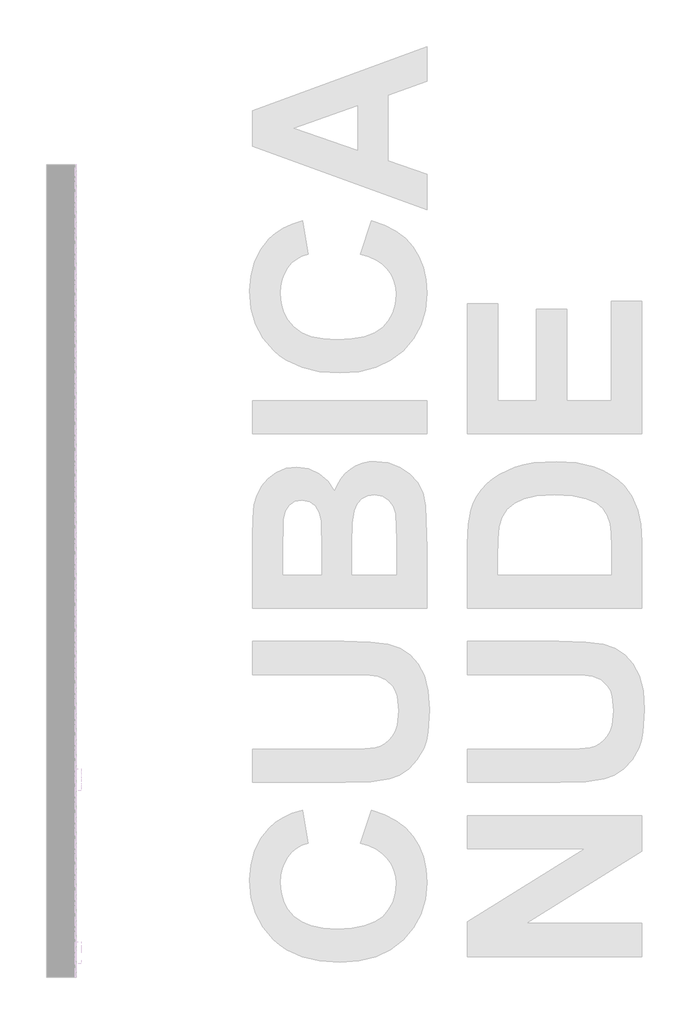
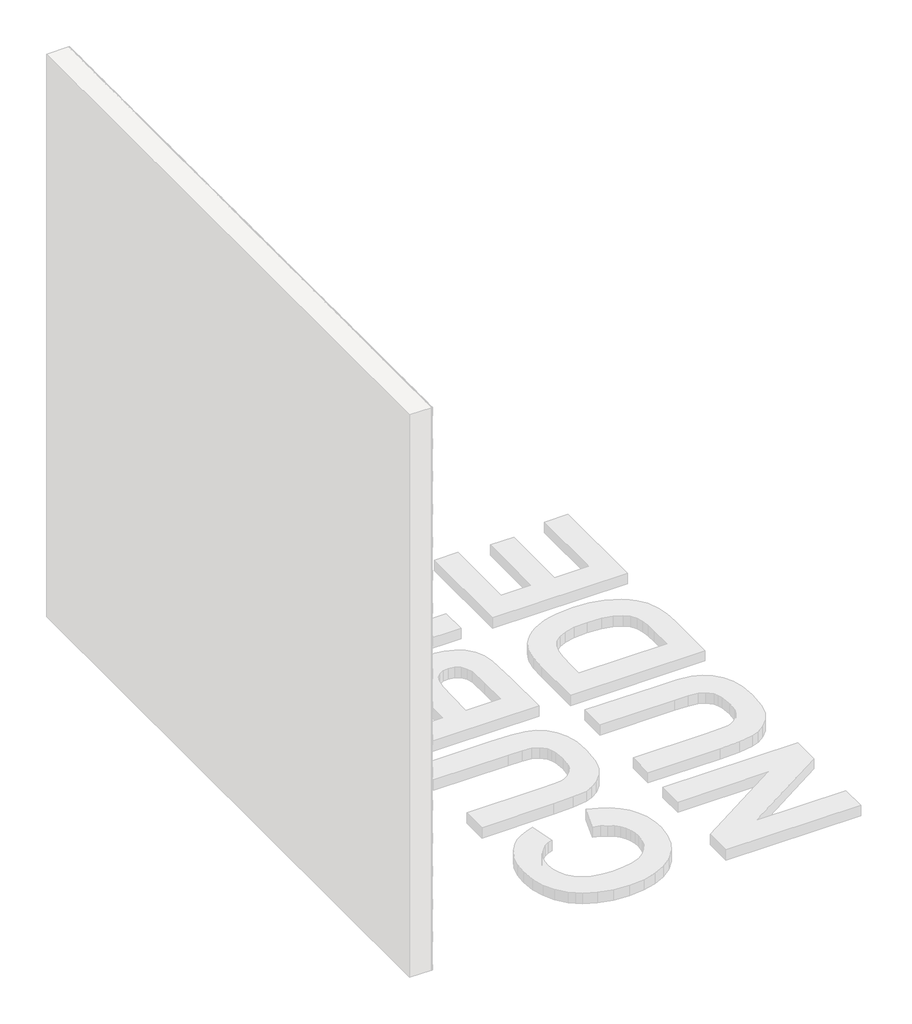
# One storey, part 66 of 121: 145 proxies.
"""IFC4 building model written with IfcOpenShell, lengths in millimetres."""

from ifc_helpers import new_model, si_unit, origin, place, context, project, spatial, transform, mapped, element, save
from components import generic_models_b2b2c5c1, generic_models_9bf73f6f, generic_models_5d175859

model = new_model("IFC4")

# Units and contexts
model_context = context("Model", 3, world=origin())
ifc_project = project(units=[si_unit("LENGTHUNIT", "METRE", prefix="MILLI")], contexts=[model_context])

# Site, building, storey
site = spatial("IfcSite", under=ifc_project)
building = spatial("IfcBuilding", under=site)
storey = spatial("IfcBuildingStorey", under=building, Name="PORTOBELLO - SHOWROOM", Elevation=0.0)

# Proxies
placement = place(None, origin())
generic_models_shape = generic_models_b2b2c5c1(model_context)
element("IfcBuildingElementProxy", 1, Name="PBSHOP - CUBICA NUDE 4,8X8,3 : CUBICA NUDE - POSIÇÃO 01", ObjectType="PBSHOP - CUBICA NUDE 4,8X8,3 : CUBICA NUDE - POSIÇÃO 01", at=placement, inside=storey, context=model_context, shape_type="MappedRepresentation", body=[
    mapped(generic_models_shape, transform((150369.5341846, 8622.109842, 749.8339122), x_axis=(0.0, 1.0, 0.0), y_axis=(0.0, 0.0, 1.0), z_axis=(1.0, 0.0, 0.0))),
])
element("IfcBuildingElementProxy", 2, Name="PBSHOP - CUBICA NUDE 4,8X8,3 : CUBICA NUDE - POSIÇÃO 01", ObjectType="PBSHOP - CUBICA NUDE 4,8X8,3 : CUBICA NUDE - POSIÇÃO 01", at=placement, inside=storey, context=model_context, shape_type="MappedRepresentation", body=[
    mapped(generic_models_shape, transform((150369.5341846, 8712.9491113, 749.8339122), x_axis=(0.0, 1.0, 0.0), y_axis=(0.0, 0.0, 1.0), z_axis=(1.0, 0.0, 0.0))),
])
element("IfcBuildingElementProxy", 3, Name="PBSHOP - CUBICA NUDE 4,8X8,3 : CUBICA NUDE - POSIÇÃO 01", ObjectType="PBSHOP - CUBICA NUDE 4,8X8,3 : CUBICA NUDE - POSIÇÃO 01", at=placement, inside=storey, context=model_context, shape_type="MappedRepresentation", body=[
    mapped(generic_models_shape, transform((150369.5341846, 8803.7883805, 749.8339122), x_axis=(0.0, 1.0, 0.0), y_axis=(0.0, 0.0, 1.0), z_axis=(1.0, 0.0, 0.0))),
])
element("IfcBuildingElementProxy", 4, Name="PBSHOP - CUBICA NUDE 4,8X8,3 : CUBICA NUDE - POSIÇÃO 01", ObjectType="PBSHOP - CUBICA NUDE 4,8X8,3 : CUBICA NUDE - POSIÇÃO 01", at=placement, inside=storey, context=model_context, shape_type="MappedRepresentation", body=[
    mapped(generic_models_shape, transform((150369.5341846, 8894.6276498, 749.8339122), x_axis=(0.0, 1.0, 0.0), y_axis=(0.0, 0.0, 1.0), z_axis=(1.0, 0.0, 0.0))),
])
element("IfcBuildingElementProxy", 5, Name="PBSHOP - CUBICA NUDE 4,8X8,3 : CUBICA NUDE - POSIÇÃO 01", ObjectType="PBSHOP - CUBICA NUDE 4,8X8,3 : CUBICA NUDE - POSIÇÃO 01", at=placement, inside=storey, context=model_context, shape_type="MappedRepresentation", body=[
    mapped(generic_models_shape, transform((150369.5341846, 8985.466919, 749.8339122), x_axis=(0.0, 1.0, 0.0), y_axis=(0.0, 0.0, 1.0), z_axis=(1.0, 0.0, 0.0))),
])
element("IfcBuildingElementProxy", 6, Name="PBSHOP - CUBICA NUDE 4,8X8,3 : CUBICA NUDE - POSIÇÃO 01", ObjectType="PBSHOP - CUBICA NUDE 4,8X8,3 : CUBICA NUDE - POSIÇÃO 01", at=placement, inside=storey, context=model_context, shape_type="MappedRepresentation", body=[
    mapped(generic_models_shape, transform((150369.5341846, 8031.654592, 828.7685506), x_axis=(0.0, 1.0, 0.0), y_axis=(0.0, 0.0, 1.0), z_axis=(1.0, 0.0, 0.0))),
])
element("IfcBuildingElementProxy", 7, Name="PBSHOP - CUBICA NUDE 4,8X8,3 : CUBICA NUDE - POSIÇÃO 01", ObjectType="PBSHOP - CUBICA NUDE 4,8X8,3 : CUBICA NUDE - POSIÇÃO 01", at=placement, inside=storey, context=model_context, shape_type="MappedRepresentation", body=[
    mapped(generic_models_shape, transform((150369.5341846, 8122.4938612, 828.7685506), x_axis=(0.0, 1.0, 0.0), y_axis=(0.0, 0.0, 1.0), z_axis=(1.0, 0.0, 0.0))),
])
element("IfcBuildingElementProxy", 8, Name="PBSHOP - CUBICA NUDE 4,8X8,3 : CUBICA NUDE - POSIÇÃO 01", ObjectType="PBSHOP - CUBICA NUDE 4,8X8,3 : CUBICA NUDE - POSIÇÃO 01", at=placement, inside=storey, context=model_context, shape_type="MappedRepresentation", body=[
    mapped(generic_models_shape, transform((150369.5341846, 8213.3331304, 828.7685506), x_axis=(0.0, 1.0, 0.0), y_axis=(0.0, 0.0, 1.0), z_axis=(1.0, 0.0, 0.0))),
])
element("IfcBuildingElementProxy", 9, Name="PBSHOP - CUBICA NUDE 4,8X8,3 : CUBICA NUDE - POSIÇÃO 01", ObjectType="PBSHOP - CUBICA NUDE 4,8X8,3 : CUBICA NUDE - POSIÇÃO 01", at=placement, inside=storey, context=model_context, shape_type="MappedRepresentation", body=[
    mapped(generic_models_shape, transform((150369.5341846, 8304.1723997, 828.7685506), x_axis=(0.0, 1.0, 0.0), y_axis=(0.0, 0.0, 1.0), z_axis=(1.0, 0.0, 0.0))),
])
element("IfcBuildingElementProxy", 10, Name="PBSHOP - CUBICA NUDE 4,8X8,3 : CUBICA NUDE - POSIÇÃO 01", ObjectType="PBSHOP - CUBICA NUDE 4,8X8,3 : CUBICA NUDE - POSIÇÃO 01", at=placement, inside=storey, context=model_context, shape_type="MappedRepresentation", body=[
    mapped(generic_models_shape, transform((150369.5341846, 8395.0116689, 828.7685506), x_axis=(0.0, 1.0, 0.0), y_axis=(0.0, 0.0, 1.0), z_axis=(1.0, 0.0, 0.0))),
])
element("IfcBuildingElementProxy", 11, Name="PBSHOP - CUBICA NUDE 4,8X8,3 : CUBICA NUDE - POSIÇÃO 01", ObjectType="PBSHOP - CUBICA NUDE 4,8X8,3 : CUBICA NUDE - POSIÇÃO 01", at=placement, inside=storey, context=model_context, shape_type="MappedRepresentation", body=[
    mapped(generic_models_shape, transform((150369.5341846, 8485.8509382, 828.7685506), x_axis=(0.0, 1.0, 0.0), y_axis=(0.0, 0.0, 1.0), z_axis=(1.0, 0.0, 0.0))),
])
element("IfcBuildingElementProxy", 12, Name="PBSHOP - CUBICA NUDE 4,8X8,3 : CUBICA NUDE - POSIÇÃO 01", ObjectType="PBSHOP - CUBICA NUDE 4,8X8,3 : CUBICA NUDE - POSIÇÃO 01", at=placement, inside=storey, context=model_context, shape_type="MappedRepresentation", body=[
    mapped(generic_models_shape, transform((150369.5341846, 8576.6902074, 828.7685506), x_axis=(0.0, 1.0, 0.0), y_axis=(0.0, 0.0, 1.0), z_axis=(1.0, 0.0, 0.0))),
])
element("IfcBuildingElementProxy", 13, Name="PBSHOP - CUBICA NUDE 4,8X8,3 : CUBICA NUDE - POSIÇÃO 01", ObjectType="PBSHOP - CUBICA NUDE 4,8X8,3 : CUBICA NUDE - POSIÇÃO 01", at=placement, inside=storey, context=model_context, shape_type="MappedRepresentation", body=[
    mapped(generic_models_shape, transform((150369.5341846, 8667.5294767, 828.7685506), x_axis=(0.0, 1.0, 0.0), y_axis=(0.0, 0.0, 1.0), z_axis=(1.0, 0.0, 0.0))),
])
element("IfcBuildingElementProxy", 14, Name="PBSHOP - CUBICA NUDE 4,8X8,3 : CUBICA NUDE - POSIÇÃO 01", ObjectType="PBSHOP - CUBICA NUDE 4,8X8,3 : CUBICA NUDE - POSIÇÃO 01", at=placement, inside=storey, context=model_context, shape_type="MappedRepresentation", body=[
    mapped(generic_models_shape, transform((150369.5341846, 8758.3687459, 828.7685506), x_axis=(0.0, 1.0, 0.0), y_axis=(0.0, 0.0, 1.0), z_axis=(1.0, 0.0, 0.0))),
])
element("IfcBuildingElementProxy", 15, Name="PBSHOP - CUBICA NUDE 4,8X8,3 : CUBICA NUDE - POSIÇÃO 01", ObjectType="PBSHOP - CUBICA NUDE 4,8X8,3 : CUBICA NUDE - POSIÇÃO 01", at=placement, inside=storey, context=model_context, shape_type="MappedRepresentation", body=[
    mapped(generic_models_shape, transform((150369.5341846, 8849.2080152, 828.7685506), x_axis=(0.0, 1.0, 0.0), y_axis=(0.0, 0.0, 1.0), z_axis=(1.0, 0.0, 0.0))),
])
element("IfcBuildingElementProxy", 16, Name="PBSHOP - CUBICA NUDE 4,8X8,3 : CUBICA NUDE - POSIÇÃO 01", ObjectType="PBSHOP - CUBICA NUDE 4,8X8,3 : CUBICA NUDE - POSIÇÃO 01", at=placement, inside=storey, context=model_context, shape_type="MappedRepresentation", body=[
    mapped(generic_models_shape, transform((150369.5341846, 8940.0472844, 828.7685506), x_axis=(0.0, 1.0, 0.0), y_axis=(0.0, 0.0, 1.0), z_axis=(1.0, 0.0, 0.0))),
])
element("IfcBuildingElementProxy", 17, Name="PBSHOP - CUBICA NUDE 4,8X8,3 : CUBICA NUDE - POSIÇÃO 01", ObjectType="PBSHOP - CUBICA NUDE 4,8X8,3 : CUBICA NUDE - POSIÇÃO 01", at=placement, inside=storey, context=model_context, shape_type="MappedRepresentation", body=[
    mapped(generic_models_shape, transform((150369.5341846, 8077.0742266, 907.7031889), x_axis=(0.0, 1.0, 0.0), y_axis=(0.0, 0.0, 1.0), z_axis=(1.0, 0.0, 0.0))),
])
element("IfcBuildingElementProxy", 18, Name="PBSHOP - CUBICA NUDE 4,8X8,3 : CUBICA NUDE - POSIÇÃO 01", ObjectType="PBSHOP - CUBICA NUDE 4,8X8,3 : CUBICA NUDE - POSIÇÃO 01", at=placement, inside=storey, context=model_context, shape_type="MappedRepresentation", body=[
    mapped(generic_models_shape, transform((150369.5341846, 8167.9134958, 907.7031889), x_axis=(0.0, 1.0, 0.0), y_axis=(0.0, 0.0, 1.0), z_axis=(1.0, 0.0, 0.0))),
])
element("IfcBuildingElementProxy", 19, Name="PBSHOP - CUBICA NUDE 4,8X8,3 : CUBICA NUDE - POSIÇÃO 01", ObjectType="PBSHOP - CUBICA NUDE 4,8X8,3 : CUBICA NUDE - POSIÇÃO 01", at=placement, inside=storey, context=model_context, shape_type="MappedRepresentation", body=[
    mapped(generic_models_shape, transform((150369.5341846, 8258.7527651, 907.7031889), x_axis=(0.0, 1.0, 0.0), y_axis=(0.0, 0.0, 1.0), z_axis=(1.0, 0.0, 0.0))),
])
element("IfcBuildingElementProxy", 20, Name="PBSHOP - CUBICA NUDE 4,8X8,3 : CUBICA NUDE - POSIÇÃO 01", ObjectType="PBSHOP - CUBICA NUDE 4,8X8,3 : CUBICA NUDE - POSIÇÃO 01", at=placement, inside=storey, context=model_context, shape_type="MappedRepresentation", body=[
    mapped(generic_models_shape, transform((150369.5341846, 8349.5920343, 907.7031889), x_axis=(0.0, 1.0, 0.0), y_axis=(0.0, 0.0, 1.0), z_axis=(1.0, 0.0, 0.0))),
])
element("IfcBuildingElementProxy", 21, Name="PBSHOP - CUBICA NUDE 4,8X8,3 : CUBICA NUDE - POSIÇÃO 01", ObjectType="PBSHOP - CUBICA NUDE 4,8X8,3 : CUBICA NUDE - POSIÇÃO 01", at=placement, inside=storey, context=model_context, shape_type="MappedRepresentation", body=[
    mapped(generic_models_shape, transform((150369.5341846, 8440.4313036, 907.7031889), x_axis=(0.0, 1.0, 0.0), y_axis=(0.0, 0.0, 1.0), z_axis=(1.0, 0.0, 0.0))),
])
element("IfcBuildingElementProxy", 22, Name="PBSHOP - CUBICA NUDE 4,8X8,3 : CUBICA NUDE - POSIÇÃO 01", ObjectType="PBSHOP - CUBICA NUDE 4,8X8,3 : CUBICA NUDE - POSIÇÃO 01", at=placement, inside=storey, context=model_context, shape_type="MappedRepresentation", body=[
    mapped(generic_models_shape, transform((150369.5341846, 8531.2705728, 907.7031889), x_axis=(0.0, 1.0, 0.0), y_axis=(0.0, 0.0, 1.0), z_axis=(1.0, 0.0, 0.0))),
])
element("IfcBuildingElementProxy", 23, Name="PBSHOP - CUBICA NUDE 4,8X8,3 : CUBICA NUDE - POSIÇÃO 01", ObjectType="PBSHOP - CUBICA NUDE 4,8X8,3 : CUBICA NUDE - POSIÇÃO 01", at=placement, inside=storey, context=model_context, shape_type="MappedRepresentation", body=[
    mapped(generic_models_shape, transform((150369.5341846, 8622.109842, 907.7031889), x_axis=(0.0, 1.0, 0.0), y_axis=(0.0, 0.0, 1.0), z_axis=(1.0, 0.0, 0.0))),
])
element("IfcBuildingElementProxy", 24, Name="PBSHOP - CUBICA NUDE 4,8X8,3 : CUBICA NUDE - POSIÇÃO 01", ObjectType="PBSHOP - CUBICA NUDE 4,8X8,3 : CUBICA NUDE - POSIÇÃO 01", at=placement, inside=storey, context=model_context, shape_type="MappedRepresentation", body=[
    mapped(generic_models_shape, transform((150369.5341846, 8712.9491113, 907.7031889), x_axis=(0.0, 1.0, 0.0), y_axis=(0.0, 0.0, 1.0), z_axis=(1.0, 0.0, 0.0))),
])
element("IfcBuildingElementProxy", 25, Name="PBSHOP - CUBICA NUDE 4,8X8,3 : CUBICA NUDE - POSIÇÃO 01", ObjectType="PBSHOP - CUBICA NUDE 4,8X8,3 : CUBICA NUDE - POSIÇÃO 01", at=placement, inside=storey, context=model_context, shape_type="MappedRepresentation", body=[
    mapped(generic_models_shape, transform((150369.5341846, 8803.7883805, 907.7031889), x_axis=(0.0, 1.0, 0.0), y_axis=(0.0, 0.0, 1.0), z_axis=(1.0, 0.0, 0.0))),
])
element("IfcBuildingElementProxy", 26, Name="PBSHOP - CUBICA NUDE 4,8X8,3 : CUBICA NUDE - POSIÇÃO 01", ObjectType="PBSHOP - CUBICA NUDE 4,8X8,3 : CUBICA NUDE - POSIÇÃO 01", at=placement, inside=storey, context=model_context, shape_type="MappedRepresentation", body=[
    mapped(generic_models_shape, transform((150369.5341846, 8894.6276498, 907.7031889), x_axis=(0.0, 1.0, 0.0), y_axis=(0.0, 0.0, 1.0), z_axis=(1.0, 0.0, 0.0))),
])
element("IfcBuildingElementProxy", 27, Name="PBSHOP - CUBICA NUDE 4,8X8,3 : CUBICA NUDE - POSIÇÃO 01", ObjectType="PBSHOP - CUBICA NUDE 4,8X8,3 : CUBICA NUDE - POSIÇÃO 01", at=placement, inside=storey, context=model_context, shape_type="MappedRepresentation", body=[
    mapped(generic_models_shape, transform((150369.5341846, 8985.466919, 907.7031889), x_axis=(0.0, 1.0, 0.0), y_axis=(0.0, 0.0, 1.0), z_axis=(1.0, 0.0, 0.0))),
])
element("IfcBuildingElementProxy", 28, Name="PBSHOP - CUBICA NUDE 4,8X8,3 : CUBICA NUDE - POSIÇÃO 01", ObjectType="PBSHOP - CUBICA NUDE 4,8X8,3 : CUBICA NUDE - POSIÇÃO 01", at=placement, inside=storey, context=model_context, shape_type="MappedRepresentation", body=[
    mapped(generic_models_shape, transform((150369.5341846, 8031.654592, 986.6378273), x_axis=(0.0, 1.0, 0.0), y_axis=(0.0, 0.0, 1.0), z_axis=(1.0, 0.0, 0.0))),
])
element("IfcBuildingElementProxy", 29, Name="PBSHOP - CUBICA NUDE 4,8X8,3 : CUBICA NUDE - POSIÇÃO 01", ObjectType="PBSHOP - CUBICA NUDE 4,8X8,3 : CUBICA NUDE - POSIÇÃO 01", at=placement, inside=storey, context=model_context, shape_type="MappedRepresentation", body=[
    mapped(generic_models_shape, transform((150369.5341846, 8122.4938612, 986.6378273), x_axis=(0.0, 1.0, 0.0), y_axis=(0.0, 0.0, 1.0), z_axis=(1.0, 0.0, 0.0))),
])
element("IfcBuildingElementProxy", 30, Name="PBSHOP - CUBICA NUDE 4,8X8,3 : CUBICA NUDE - POSIÇÃO 01", ObjectType="PBSHOP - CUBICA NUDE 4,8X8,3 : CUBICA NUDE - POSIÇÃO 01", at=placement, inside=storey, context=model_context, shape_type="MappedRepresentation", body=[
    mapped(generic_models_shape, transform((150369.5341846, 8213.3331304, 986.6378273), x_axis=(0.0, 1.0, 0.0), y_axis=(0.0, 0.0, 1.0), z_axis=(1.0, 0.0, 0.0))),
])
element("IfcBuildingElementProxy", 31, Name="PBSHOP - CUBICA NUDE 4,8X8,3 : CUBICA NUDE - POSIÇÃO 01", ObjectType="PBSHOP - CUBICA NUDE 4,8X8,3 : CUBICA NUDE - POSIÇÃO 01", at=placement, inside=storey, context=model_context, shape_type="MappedRepresentation", body=[
    mapped(generic_models_shape, transform((150369.5341846, 8304.1723997, 986.6378273), x_axis=(0.0, 1.0, 0.0), y_axis=(0.0, 0.0, 1.0), z_axis=(1.0, 0.0, 0.0))),
])
element("IfcBuildingElementProxy", 32, Name="PBSHOP - CUBICA NUDE 4,8X8,3 : CUBICA NUDE - POSIÇÃO 01", ObjectType="PBSHOP - CUBICA NUDE 4,8X8,3 : CUBICA NUDE - POSIÇÃO 01", at=placement, inside=storey, context=model_context, shape_type="MappedRepresentation", body=[
    mapped(generic_models_shape, transform((150369.5341846, 8395.0116689, 986.6378273), x_axis=(0.0, 1.0, 0.0), y_axis=(0.0, 0.0, 1.0), z_axis=(1.0, 0.0, 0.0))),
])
element("IfcBuildingElementProxy", 33, Name="PBSHOP - CUBICA NUDE 4,8X8,3 : CUBICA NUDE - POSIÇÃO 01", ObjectType="PBSHOP - CUBICA NUDE 4,8X8,3 : CUBICA NUDE - POSIÇÃO 01", at=placement, inside=storey, context=model_context, shape_type="MappedRepresentation", body=[
    mapped(generic_models_shape, transform((150369.5341846, 8485.8509382, 986.6378273), x_axis=(0.0, 1.0, 0.0), y_axis=(0.0, 0.0, 1.0), z_axis=(1.0, 0.0, 0.0))),
])
element("IfcBuildingElementProxy", 34, Name="PBSHOP - CUBICA NUDE 4,8X8,3 : CUBICA NUDE - POSIÇÃO 01", ObjectType="PBSHOP - CUBICA NUDE 4,8X8,3 : CUBICA NUDE - POSIÇÃO 01", at=placement, inside=storey, context=model_context, shape_type="MappedRepresentation", body=[
    mapped(generic_models_shape, transform((150369.5341846, 8576.6902074, 986.6378273), x_axis=(0.0, 1.0, 0.0), y_axis=(0.0, 0.0, 1.0), z_axis=(1.0, 0.0, 0.0))),
])
element("IfcBuildingElementProxy", 35, Name="PBSHOP - CUBICA NUDE 4,8X8,3 : CUBICA NUDE - POSIÇÃO 01", ObjectType="PBSHOP - CUBICA NUDE 4,8X8,3 : CUBICA NUDE - POSIÇÃO 01", at=placement, inside=storey, context=model_context, shape_type="MappedRepresentation", body=[
    mapped(generic_models_shape, transform((150369.5341846, 8667.5294767, 986.6378273), x_axis=(0.0, 1.0, 0.0), y_axis=(0.0, 0.0, 1.0), z_axis=(1.0, 0.0, 0.0))),
])
element("IfcBuildingElementProxy", 36, Name="PBSHOP - CUBICA NUDE 4,8X8,3 : CUBICA NUDE - POSIÇÃO 01", ObjectType="PBSHOP - CUBICA NUDE 4,8X8,3 : CUBICA NUDE - POSIÇÃO 01", at=placement, inside=storey, context=model_context, shape_type="MappedRepresentation", body=[
    mapped(generic_models_shape, transform((150369.5341846, 8758.3687459, 986.6378273), x_axis=(0.0, 1.0, 0.0), y_axis=(0.0, 0.0, 1.0), z_axis=(1.0, 0.0, 0.0))),
])
element("IfcBuildingElementProxy", 37, Name="PBSHOP - CUBICA NUDE 4,8X8,3 : CUBICA NUDE - POSIÇÃO 01", ObjectType="PBSHOP - CUBICA NUDE 4,8X8,3 : CUBICA NUDE - POSIÇÃO 01", at=placement, inside=storey, context=model_context, shape_type="MappedRepresentation", body=[
    mapped(generic_models_shape, transform((150369.5341846, 8849.2080152, 986.6378273), x_axis=(0.0, 1.0, 0.0), y_axis=(0.0, 0.0, 1.0), z_axis=(1.0, 0.0, 0.0))),
])
element("IfcBuildingElementProxy", 38, Name="PBSHOP - CUBICA NUDE 4,8X8,3 : CUBICA NUDE - POSIÇÃO 01", ObjectType="PBSHOP - CUBICA NUDE 4,8X8,3 : CUBICA NUDE - POSIÇÃO 01", at=placement, inside=storey, context=model_context, shape_type="MappedRepresentation", body=[
    mapped(generic_models_shape, transform((150369.5341846, 8940.0472844, 986.6378273), x_axis=(0.0, 1.0, 0.0), y_axis=(0.0, 0.0, 1.0), z_axis=(1.0, 0.0, 0.0))),
])
element("IfcBuildingElementProxy", 39, Name="PBSHOP - CUBICA NUDE 4,8X8,3 : CUBICA NUDE - POSIÇÃO 01", ObjectType="PBSHOP - CUBICA NUDE 4,8X8,3 : CUBICA NUDE - POSIÇÃO 01", at=placement, inside=storey, context=model_context, shape_type="MappedRepresentation", body=[
    mapped(generic_models_shape, transform((150369.5341846, 8077.0742266, 1065.5724657), x_axis=(0.0, 1.0, 0.0), y_axis=(0.0, 0.0, 1.0), z_axis=(1.0, 0.0, 0.0))),
])
element("IfcBuildingElementProxy", 40, Name="PBSHOP - CUBICA NUDE 4,8X8,3 : CUBICA NUDE - POSIÇÃO 01", ObjectType="PBSHOP - CUBICA NUDE 4,8X8,3 : CUBICA NUDE - POSIÇÃO 01", at=placement, inside=storey, context=model_context, shape_type="MappedRepresentation", body=[
    mapped(generic_models_shape, transform((150369.5341846, 8167.9134958, 1065.5724657), x_axis=(0.0, 1.0, 0.0), y_axis=(0.0, 0.0, 1.0), z_axis=(1.0, 0.0, 0.0))),
])
element("IfcBuildingElementProxy", 41, Name="PBSHOP - CUBICA NUDE 4,8X8,3 : CUBICA NUDE - POSIÇÃO 01", ObjectType="PBSHOP - CUBICA NUDE 4,8X8,3 : CUBICA NUDE - POSIÇÃO 01", at=placement, inside=storey, context=model_context, shape_type="MappedRepresentation", body=[
    mapped(generic_models_shape, transform((150369.5341846, 8258.7527651, 1065.5724657), x_axis=(0.0, 1.0, 0.0), y_axis=(0.0, 0.0, 1.0), z_axis=(1.0, 0.0, 0.0))),
])
element("IfcBuildingElementProxy", 42, Name="PBSHOP - CUBICA NUDE 4,8X8,3 : CUBICA NUDE - POSIÇÃO 01", ObjectType="PBSHOP - CUBICA NUDE 4,8X8,3 : CUBICA NUDE - POSIÇÃO 01", at=placement, inside=storey, context=model_context, shape_type="MappedRepresentation", body=[
    mapped(generic_models_shape, transform((150369.5341846, 8349.5920343, 1065.5724657), x_axis=(0.0, 1.0, 0.0), y_axis=(0.0, 0.0, 1.0), z_axis=(1.0, 0.0, 0.0))),
])
element("IfcBuildingElementProxy", 43, Name="PBSHOP - CUBICA NUDE 4,8X8,3 : CUBICA NUDE - POSIÇÃO 01", ObjectType="PBSHOP - CUBICA NUDE 4,8X8,3 : CUBICA NUDE - POSIÇÃO 01", at=placement, inside=storey, context=model_context, shape_type="MappedRepresentation", body=[
    mapped(generic_models_shape, transform((150369.5341846, 8440.4313036, 1065.5724657), x_axis=(0.0, 1.0, 0.0), y_axis=(0.0, 0.0, 1.0), z_axis=(1.0, 0.0, 0.0))),
])
element("IfcBuildingElementProxy", 44, Name="PBSHOP - CUBICA NUDE 4,8X8,3 : CUBICA NUDE - POSIÇÃO 01", ObjectType="PBSHOP - CUBICA NUDE 4,8X8,3 : CUBICA NUDE - POSIÇÃO 01", at=placement, inside=storey, context=model_context, shape_type="MappedRepresentation", body=[
    mapped(generic_models_shape, transform((150369.5341846, 8531.2705728, 1065.5724657), x_axis=(0.0, 1.0, 0.0), y_axis=(0.0, 0.0, 1.0), z_axis=(1.0, 0.0, 0.0))),
])
element("IfcBuildingElementProxy", 45, Name="PBSHOP - CUBICA NUDE 4,8X8,3 : CUBICA NUDE - POSIÇÃO 01", ObjectType="PBSHOP - CUBICA NUDE 4,8X8,3 : CUBICA NUDE - POSIÇÃO 01", at=placement, inside=storey, context=model_context, shape_type="MappedRepresentation", body=[
    mapped(generic_models_shape, transform((150369.5341846, 8622.109842, 1065.5724657), x_axis=(0.0, 1.0, 0.0), y_axis=(0.0, 0.0, 1.0), z_axis=(1.0, 0.0, 0.0))),
])
element("IfcBuildingElementProxy", 46, Name="PBSHOP - CUBICA NUDE 4,8X8,3 : CUBICA NUDE - POSIÇÃO 01", ObjectType="PBSHOP - CUBICA NUDE 4,8X8,3 : CUBICA NUDE - POSIÇÃO 01", at=placement, inside=storey, context=model_context, shape_type="MappedRepresentation", body=[
    mapped(generic_models_shape, transform((150369.5341846, 8712.9491113, 1065.5724657), x_axis=(0.0, 1.0, 0.0), y_axis=(0.0, 0.0, 1.0), z_axis=(1.0, 0.0, 0.0))),
])
element("IfcBuildingElementProxy", 47, Name="PBSHOP - CUBICA NUDE 4,8X8,3 : CUBICA NUDE - POSIÇÃO 01", ObjectType="PBSHOP - CUBICA NUDE 4,8X8,3 : CUBICA NUDE - POSIÇÃO 01", at=placement, inside=storey, context=model_context, shape_type="MappedRepresentation", body=[
    mapped(generic_models_shape, transform((150369.5341846, 8803.7883805, 1065.5724657), x_axis=(0.0, 1.0, 0.0), y_axis=(0.0, 0.0, 1.0), z_axis=(1.0, 0.0, 0.0))),
])
element("IfcBuildingElementProxy", 48, Name="PBSHOP - CUBICA NUDE 4,8X8,3 : CUBICA NUDE - POSIÇÃO 01", ObjectType="PBSHOP - CUBICA NUDE 4,8X8,3 : CUBICA NUDE - POSIÇÃO 01", at=placement, inside=storey, context=model_context, shape_type="MappedRepresentation", body=[
    mapped(generic_models_shape, transform((150369.5341846, 8894.6276498, 1065.5724657), x_axis=(0.0, 1.0, 0.0), y_axis=(0.0, 0.0, 1.0), z_axis=(1.0, 0.0, 0.0))),
])
element("IfcBuildingElementProxy", 49, Name="PBSHOP - CUBICA NUDE 4,8X8,3 : CUBICA NUDE - POSIÇÃO 01", ObjectType="PBSHOP - CUBICA NUDE 4,8X8,3 : CUBICA NUDE - POSIÇÃO 01", at=placement, inside=storey, context=model_context, shape_type="MappedRepresentation", body=[
    mapped(generic_models_shape, transform((150369.5341846, 8985.466919, 1065.5724657), x_axis=(0.0, 1.0, 0.0), y_axis=(0.0, 0.0, 1.0), z_axis=(1.0, 0.0, 0.0))),
])
generic_models_2_shape = generic_models_9bf73f6f(model_context)
element("IfcBuildingElementProxy", 50, Name="PBSHOP - CUBICA NUDE 4,8X8,3 : CUBICA NUDE - POSIÇÃO 03", ObjectType="PBSHOP - CUBICA NUDE 4,8X8,3 : CUBICA NUDE - POSIÇÃO 03", at=placement, inside=storey, context=model_context, shape_type="MappedRepresentation", body=[
    mapped(generic_models_2_shape, transform((150369.5341846, 8054.3665684, 710.3253826), x_axis=(0.0, 1.0, 0.0), y_axis=(0.0, 0.0, 1.0), z_axis=(1.0, 0.0, 0.0))),
])
element("IfcBuildingElementProxy", 51, Name="PBSHOP - CUBICA NUDE 4,8X8,3 : CUBICA NUDE - POSIÇÃO 03", ObjectType="PBSHOP - CUBICA NUDE 4,8X8,3 : CUBICA NUDE - POSIÇÃO 03", at=placement, inside=storey, context=model_context, shape_type="MappedRepresentation", body=[
    mapped(generic_models_2_shape, transform((150369.5341846, 8145.2058377, 710.3253826), x_axis=(0.0, 1.0, 0.0), y_axis=(0.0, 0.0, 1.0), z_axis=(1.0, 0.0, 0.0))),
])
element("IfcBuildingElementProxy", 52, Name="PBSHOP - CUBICA NUDE 4,8X8,3 : CUBICA NUDE - POSIÇÃO 03", ObjectType="PBSHOP - CUBICA NUDE 4,8X8,3 : CUBICA NUDE - POSIÇÃO 03", at=placement, inside=storey, context=model_context, shape_type="MappedRepresentation", body=[
    mapped(generic_models_2_shape, transform((150369.5341846, 8236.0451069, 710.3253826), x_axis=(0.0, 1.0, 0.0), y_axis=(0.0, 0.0, 1.0), z_axis=(1.0, 0.0, 0.0))),
])
element("IfcBuildingElementProxy", 53, Name="PBSHOP - CUBICA NUDE 4,8X8,3 : CUBICA NUDE - POSIÇÃO 03", ObjectType="PBSHOP - CUBICA NUDE 4,8X8,3 : CUBICA NUDE - POSIÇÃO 03", at=placement, inside=storey, context=model_context, shape_type="MappedRepresentation", body=[
    mapped(generic_models_2_shape, transform((150369.5341846, 8326.8843762, 710.3253826), x_axis=(0.0, 1.0, 0.0), y_axis=(0.0, 0.0, 1.0), z_axis=(1.0, 0.0, 0.0))),
])
element("IfcBuildingElementProxy", 54, Name="PBSHOP - CUBICA NUDE 4,8X8,3 : CUBICA NUDE - POSIÇÃO 03", ObjectType="PBSHOP - CUBICA NUDE 4,8X8,3 : CUBICA NUDE - POSIÇÃO 03", at=placement, inside=storey, context=model_context, shape_type="MappedRepresentation", body=[
    mapped(generic_models_2_shape, transform((150369.5341846, 8417.7236454, 710.3253826), x_axis=(0.0, 1.0, 0.0), y_axis=(0.0, 0.0, 1.0), z_axis=(1.0, 0.0, 0.0))),
])
element("IfcBuildingElementProxy", 55, Name="PBSHOP - CUBICA NUDE 4,8X8,3 : CUBICA NUDE - POSIÇÃO 03", ObjectType="PBSHOP - CUBICA NUDE 4,8X8,3 : CUBICA NUDE - POSIÇÃO 03", at=placement, inside=storey, context=model_context, shape_type="MappedRepresentation", body=[
    mapped(generic_models_2_shape, transform((150369.5341846, 8508.5629147, 710.3253826), x_axis=(0.0, 1.0, 0.0), y_axis=(0.0, 0.0, 1.0), z_axis=(1.0, 0.0, 0.0))),
])
element("IfcBuildingElementProxy", 56, Name="PBSHOP - CUBICA NUDE 4,8X8,3 : CUBICA NUDE - POSIÇÃO 03", ObjectType="PBSHOP - CUBICA NUDE 4,8X8,3 : CUBICA NUDE - POSIÇÃO 03", at=placement, inside=storey, context=model_context, shape_type="MappedRepresentation", body=[
    mapped(generic_models_2_shape, transform((150369.5341846, 8599.4021839, 710.3253826), x_axis=(0.0, 1.0, 0.0), y_axis=(0.0, 0.0, 1.0), z_axis=(1.0, 0.0, 0.0))),
])
element("IfcBuildingElementProxy", 57, Name="PBSHOP - CUBICA NUDE 4,8X8,3 : CUBICA NUDE - POSIÇÃO 03", ObjectType="PBSHOP - CUBICA NUDE 4,8X8,3 : CUBICA NUDE - POSIÇÃO 03", at=placement, inside=storey, context=model_context, shape_type="MappedRepresentation", body=[
    mapped(generic_models_2_shape, transform((150369.5341846, 8690.2414531, 710.3253826), x_axis=(0.0, 1.0, 0.0), y_axis=(0.0, 0.0, 1.0), z_axis=(1.0, 0.0, 0.0))),
])
element("IfcBuildingElementProxy", 58, Name="PBSHOP - CUBICA NUDE 4,8X8,3 : CUBICA NUDE - POSIÇÃO 03", ObjectType="PBSHOP - CUBICA NUDE 4,8X8,3 : CUBICA NUDE - POSIÇÃO 03", at=placement, inside=storey, context=model_context, shape_type="MappedRepresentation", body=[
    mapped(generic_models_2_shape, transform((150369.5341846, 8781.0807224, 710.3253826), x_axis=(0.0, 1.0, 0.0), y_axis=(0.0, 0.0, 1.0), z_axis=(1.0, 0.0, 0.0))),
])
element("IfcBuildingElementProxy", 59, Name="PBSHOP - CUBICA NUDE 4,8X8,3 : CUBICA NUDE - POSIÇÃO 03", ObjectType="PBSHOP - CUBICA NUDE 4,8X8,3 : CUBICA NUDE - POSIÇÃO 03", at=placement, inside=storey, context=model_context, shape_type="MappedRepresentation", body=[
    mapped(generic_models_2_shape, transform((150369.5341846, 8871.9199916, 710.3253826), x_axis=(0.0, 1.0, 0.0), y_axis=(0.0, 0.0, 1.0), z_axis=(1.0, 0.0, 0.0))),
])
element("IfcBuildingElementProxy", 60, Name="PBSHOP - CUBICA NUDE 4,8X8,3 : CUBICA NUDE - POSIÇÃO 03", ObjectType="PBSHOP - CUBICA NUDE 4,8X8,3 : CUBICA NUDE - POSIÇÃO 03", at=placement, inside=storey, context=model_context, shape_type="MappedRepresentation", body=[
    mapped(generic_models_2_shape, transform((150369.5341846, 8962.7592609, 710.3253826), x_axis=(0.0, 1.0, 0.0), y_axis=(0.0, 0.0, 1.0), z_axis=(1.0, 0.0, 0.0))),
])
element("IfcBuildingElementProxy", 61, Name="PBSHOP - CUBICA NUDE 4,8X8,3 : CUBICA NUDE - POSIÇÃO 03", ObjectType="PBSHOP - CUBICA NUDE 4,8X8,3 : CUBICA NUDE - POSIÇÃO 03", at=placement, inside=storey, context=model_context, shape_type="MappedRepresentation", body=[
    mapped(generic_models_2_shape, transform((150369.5341846, 8008.9469338, 789.2600209), x_axis=(0.0, 1.0, 0.0), y_axis=(0.0, 0.0, 1.0), z_axis=(1.0, 0.0, 0.0))),
])
element("IfcBuildingElementProxy", 62, Name="PBSHOP - CUBICA NUDE 4,8X8,3 : CUBICA NUDE - POSIÇÃO 03", ObjectType="PBSHOP - CUBICA NUDE 4,8X8,3 : CUBICA NUDE - POSIÇÃO 03", at=placement, inside=storey, context=model_context, shape_type="MappedRepresentation", body=[
    mapped(generic_models_2_shape, transform((150369.5341846, 8099.7862031, 789.2600209), x_axis=(0.0, 1.0, 0.0), y_axis=(0.0, 0.0, 1.0), z_axis=(1.0, 0.0, 0.0))),
])
element("IfcBuildingElementProxy", 63, Name="PBSHOP - CUBICA NUDE 4,8X8,3 : CUBICA NUDE - POSIÇÃO 03", ObjectType="PBSHOP - CUBICA NUDE 4,8X8,3 : CUBICA NUDE - POSIÇÃO 03", at=placement, inside=storey, context=model_context, shape_type="MappedRepresentation", body=[
    mapped(generic_models_2_shape, transform((150369.5341846, 8190.6254723, 789.2600209), x_axis=(0.0, 1.0, 0.0), y_axis=(0.0, 0.0, 1.0), z_axis=(1.0, 0.0, 0.0))),
])
element("IfcBuildingElementProxy", 64, Name="PBSHOP - CUBICA NUDE 4,8X8,3 : CUBICA NUDE - POSIÇÃO 03", ObjectType="PBSHOP - CUBICA NUDE 4,8X8,3 : CUBICA NUDE - POSIÇÃO 03", at=placement, inside=storey, context=model_context, shape_type="MappedRepresentation", body=[
    mapped(generic_models_2_shape, transform((150369.5341846, 8281.4647415, 789.2600209), x_axis=(0.0, 1.0, 0.0), y_axis=(0.0, 0.0, 1.0), z_axis=(1.0, 0.0, 0.0))),
])
element("IfcBuildingElementProxy", 65, Name="PBSHOP - CUBICA NUDE 4,8X8,3 : CUBICA NUDE - POSIÇÃO 03", ObjectType="PBSHOP - CUBICA NUDE 4,8X8,3 : CUBICA NUDE - POSIÇÃO 03", at=placement, inside=storey, context=model_context, shape_type="MappedRepresentation", body=[
    mapped(generic_models_2_shape, transform((150369.5341846, 8372.3040108, 789.2600209), x_axis=(0.0, 1.0, 0.0), y_axis=(0.0, 0.0, 1.0), z_axis=(1.0, 0.0, 0.0))),
])
element("IfcBuildingElementProxy", 66, Name="PBSHOP - CUBICA NUDE 4,8X8,3 : CUBICA NUDE - POSIÇÃO 03", ObjectType="PBSHOP - CUBICA NUDE 4,8X8,3 : CUBICA NUDE - POSIÇÃO 03", at=placement, inside=storey, context=model_context, shape_type="MappedRepresentation", body=[
    mapped(generic_models_2_shape, transform((150369.5341846, 8463.14328, 789.2600209), x_axis=(0.0, 1.0, 0.0), y_axis=(0.0, 0.0, 1.0), z_axis=(1.0, 0.0, 0.0))),
])
element("IfcBuildingElementProxy", 67, Name="PBSHOP - CUBICA NUDE 4,8X8,3 : CUBICA NUDE - POSIÇÃO 03", ObjectType="PBSHOP - CUBICA NUDE 4,8X8,3 : CUBICA NUDE - POSIÇÃO 03", at=placement, inside=storey, context=model_context, shape_type="MappedRepresentation", body=[
    mapped(generic_models_2_shape, transform((150369.5341846, 8553.9825493, 789.2600209), x_axis=(0.0, 1.0, 0.0), y_axis=(0.0, 0.0, 1.0), z_axis=(1.0, 0.0, 0.0))),
])
element("IfcBuildingElementProxy", 68, Name="PBSHOP - CUBICA NUDE 4,8X8,3 : CUBICA NUDE - POSIÇÃO 03", ObjectType="PBSHOP - CUBICA NUDE 4,8X8,3 : CUBICA NUDE - POSIÇÃO 03", at=placement, inside=storey, context=model_context, shape_type="MappedRepresentation", body=[
    mapped(generic_models_2_shape, transform((150369.5341846, 8644.8218185, 789.2600209), x_axis=(0.0, 1.0, 0.0), y_axis=(0.0, 0.0, 1.0), z_axis=(1.0, 0.0, 0.0))),
])
element("IfcBuildingElementProxy", 69, Name="PBSHOP - CUBICA NUDE 4,8X8,3 : CUBICA NUDE - POSIÇÃO 03", ObjectType="PBSHOP - CUBICA NUDE 4,8X8,3 : CUBICA NUDE - POSIÇÃO 03", at=placement, inside=storey, context=model_context, shape_type="MappedRepresentation", body=[
    mapped(generic_models_2_shape, transform((150369.5341846, 8735.6610878, 789.2600209), x_axis=(0.0, 1.0, 0.0), y_axis=(0.0, 0.0, 1.0), z_axis=(1.0, 0.0, 0.0))),
])
element("IfcBuildingElementProxy", 70, Name="PBSHOP - CUBICA NUDE 4,8X8,3 : CUBICA NUDE - POSIÇÃO 03", ObjectType="PBSHOP - CUBICA NUDE 4,8X8,3 : CUBICA NUDE - POSIÇÃO 03", at=placement, inside=storey, context=model_context, shape_type="MappedRepresentation", body=[
    mapped(generic_models_2_shape, transform((150369.5341846, 8826.500357, 789.2600209), x_axis=(0.0, 1.0, 0.0), y_axis=(0.0, 0.0, 1.0), z_axis=(1.0, 0.0, 0.0))),
])
element("IfcBuildingElementProxy", 71, Name="PBSHOP - CUBICA NUDE 4,8X8,3 : CUBICA NUDE - POSIÇÃO 03", ObjectType="PBSHOP - CUBICA NUDE 4,8X8,3 : CUBICA NUDE - POSIÇÃO 03", at=placement, inside=storey, context=model_context, shape_type="MappedRepresentation", body=[
    mapped(generic_models_2_shape, transform((150369.5341846, 8917.3396263, 789.2600209), x_axis=(0.0, 1.0, 0.0), y_axis=(0.0, 0.0, 1.0), z_axis=(1.0, 0.0, 0.0))),
])
element("IfcBuildingElementProxy", 72, Name="PBSHOP - CUBICA NUDE 4,8X8,3 : CUBICA NUDE - POSIÇÃO 03", ObjectType="PBSHOP - CUBICA NUDE 4,8X8,3 : CUBICA NUDE - POSIÇÃO 03", at=placement, inside=storey, context=model_context, shape_type="MappedRepresentation", body=[
    mapped(generic_models_2_shape, transform((150369.5341846, 8054.3665684, 868.1946593), x_axis=(0.0, 1.0, 0.0), y_axis=(0.0, 0.0, 1.0), z_axis=(1.0, 0.0, 0.0))),
])
element("IfcBuildingElementProxy", 73, Name="PBSHOP - CUBICA NUDE 4,8X8,3 : CUBICA NUDE - POSIÇÃO 03", ObjectType="PBSHOP - CUBICA NUDE 4,8X8,3 : CUBICA NUDE - POSIÇÃO 03", at=placement, inside=storey, context=model_context, shape_type="MappedRepresentation", body=[
    mapped(generic_models_2_shape, transform((150369.5341846, 8145.2058377, 868.1946593), x_axis=(0.0, 1.0, 0.0), y_axis=(0.0, 0.0, 1.0), z_axis=(1.0, 0.0, 0.0))),
])
element("IfcBuildingElementProxy", 74, Name="PBSHOP - CUBICA NUDE 4,8X8,3 : CUBICA NUDE - POSIÇÃO 03", ObjectType="PBSHOP - CUBICA NUDE 4,8X8,3 : CUBICA NUDE - POSIÇÃO 03", at=placement, inside=storey, context=model_context, shape_type="MappedRepresentation", body=[
    mapped(generic_models_2_shape, transform((150369.5341846, 8236.0451069, 868.1946593), x_axis=(0.0, 1.0, 0.0), y_axis=(0.0, 0.0, 1.0), z_axis=(1.0, 0.0, 0.0))),
])
element("IfcBuildingElementProxy", 75, Name="PBSHOP - CUBICA NUDE 4,8X8,3 : CUBICA NUDE - POSIÇÃO 03", ObjectType="PBSHOP - CUBICA NUDE 4,8X8,3 : CUBICA NUDE - POSIÇÃO 03", at=placement, inside=storey, context=model_context, shape_type="MappedRepresentation", body=[
    mapped(generic_models_2_shape, transform((150369.5341846, 8326.8843762, 868.1946593), x_axis=(0.0, 1.0, 0.0), y_axis=(0.0, 0.0, 1.0), z_axis=(1.0, 0.0, 0.0))),
])
element("IfcBuildingElementProxy", 76, Name="PBSHOP - CUBICA NUDE 4,8X8,3 : CUBICA NUDE - POSIÇÃO 03", ObjectType="PBSHOP - CUBICA NUDE 4,8X8,3 : CUBICA NUDE - POSIÇÃO 03", at=placement, inside=storey, context=model_context, shape_type="MappedRepresentation", body=[
    mapped(generic_models_2_shape, transform((150369.5341846, 8417.7236454, 868.1946593), x_axis=(0.0, 1.0, 0.0), y_axis=(0.0, 0.0, 1.0), z_axis=(1.0, 0.0, 0.0))),
])
element("IfcBuildingElementProxy", 77, Name="PBSHOP - CUBICA NUDE 4,8X8,3 : CUBICA NUDE - POSIÇÃO 03", ObjectType="PBSHOP - CUBICA NUDE 4,8X8,3 : CUBICA NUDE - POSIÇÃO 03", at=placement, inside=storey, context=model_context, shape_type="MappedRepresentation", body=[
    mapped(generic_models_2_shape, transform((150369.5341846, 8508.5629147, 868.1946593), x_axis=(0.0, 1.0, 0.0), y_axis=(0.0, 0.0, 1.0), z_axis=(1.0, 0.0, 0.0))),
])
element("IfcBuildingElementProxy", 78, Name="PBSHOP - CUBICA NUDE 4,8X8,3 : CUBICA NUDE - POSIÇÃO 03", ObjectType="PBSHOP - CUBICA NUDE 4,8X8,3 : CUBICA NUDE - POSIÇÃO 03", at=placement, inside=storey, context=model_context, shape_type="MappedRepresentation", body=[
    mapped(generic_models_2_shape, transform((150369.5341846, 8599.4021839, 868.1946593), x_axis=(0.0, 1.0, 0.0), y_axis=(0.0, 0.0, 1.0), z_axis=(1.0, 0.0, 0.0))),
])
element("IfcBuildingElementProxy", 79, Name="PBSHOP - CUBICA NUDE 4,8X8,3 : CUBICA NUDE - POSIÇÃO 03", ObjectType="PBSHOP - CUBICA NUDE 4,8X8,3 : CUBICA NUDE - POSIÇÃO 03", at=placement, inside=storey, context=model_context, shape_type="MappedRepresentation", body=[
    mapped(generic_models_2_shape, transform((150369.5341846, 8690.2414531, 868.1946593), x_axis=(0.0, 1.0, 0.0), y_axis=(0.0, 0.0, 1.0), z_axis=(1.0, 0.0, 0.0))),
])
element("IfcBuildingElementProxy", 80, Name="PBSHOP - CUBICA NUDE 4,8X8,3 : CUBICA NUDE - POSIÇÃO 03", ObjectType="PBSHOP - CUBICA NUDE 4,8X8,3 : CUBICA NUDE - POSIÇÃO 03", at=placement, inside=storey, context=model_context, shape_type="MappedRepresentation", body=[
    mapped(generic_models_2_shape, transform((150369.5341846, 8781.0807224, 868.1946593), x_axis=(0.0, 1.0, 0.0), y_axis=(0.0, 0.0, 1.0), z_axis=(1.0, 0.0, 0.0))),
])
element("IfcBuildingElementProxy", 81, Name="PBSHOP - CUBICA NUDE 4,8X8,3 : CUBICA NUDE - POSIÇÃO 03", ObjectType="PBSHOP - CUBICA NUDE 4,8X8,3 : CUBICA NUDE - POSIÇÃO 03", at=placement, inside=storey, context=model_context, shape_type="MappedRepresentation", body=[
    mapped(generic_models_2_shape, transform((150369.5341846, 8871.9199916, 868.1946593), x_axis=(0.0, 1.0, 0.0), y_axis=(0.0, 0.0, 1.0), z_axis=(1.0, 0.0, 0.0))),
])
element("IfcBuildingElementProxy", 82, Name="PBSHOP - CUBICA NUDE 4,8X8,3 : CUBICA NUDE - POSIÇÃO 03", ObjectType="PBSHOP - CUBICA NUDE 4,8X8,3 : CUBICA NUDE - POSIÇÃO 03", at=placement, inside=storey, context=model_context, shape_type="MappedRepresentation", body=[
    mapped(generic_models_2_shape, transform((150369.5341846, 8962.7592609, 868.1946593), x_axis=(0.0, 1.0, 0.0), y_axis=(0.0, 0.0, 1.0), z_axis=(1.0, 0.0, 0.0))),
])
element("IfcBuildingElementProxy", 83, Name="PBSHOP - CUBICA NUDE 4,8X8,3 : CUBICA NUDE - POSIÇÃO 03", ObjectType="PBSHOP - CUBICA NUDE 4,8X8,3 : CUBICA NUDE - POSIÇÃO 03", at=placement, inside=storey, context=model_context, shape_type="MappedRepresentation", body=[
    mapped(generic_models_2_shape, transform((150369.5341846, 8008.9469338, 947.1292977), x_axis=(0.0, 1.0, 0.0), y_axis=(0.0, 0.0, 1.0), z_axis=(1.0, 0.0, 0.0))),
])
element("IfcBuildingElementProxy", 84, Name="PBSHOP - CUBICA NUDE 4,8X8,3 : CUBICA NUDE - POSIÇÃO 03", ObjectType="PBSHOP - CUBICA NUDE 4,8X8,3 : CUBICA NUDE - POSIÇÃO 03", at=placement, inside=storey, context=model_context, shape_type="MappedRepresentation", body=[
    mapped(generic_models_2_shape, transform((150369.5341846, 8099.7862031, 947.1292977), x_axis=(0.0, 1.0, 0.0), y_axis=(0.0, 0.0, 1.0), z_axis=(1.0, 0.0, 0.0))),
])
element("IfcBuildingElementProxy", 85, Name="PBSHOP - CUBICA NUDE 4,8X8,3 : CUBICA NUDE - POSIÇÃO 03", ObjectType="PBSHOP - CUBICA NUDE 4,8X8,3 : CUBICA NUDE - POSIÇÃO 03", at=placement, inside=storey, context=model_context, shape_type="MappedRepresentation", body=[
    mapped(generic_models_2_shape, transform((150369.5341846, 8190.6254723, 947.1292977), x_axis=(0.0, 1.0, 0.0), y_axis=(0.0, 0.0, 1.0), z_axis=(1.0, 0.0, 0.0))),
])
element("IfcBuildingElementProxy", 86, Name="PBSHOP - CUBICA NUDE 4,8X8,3 : CUBICA NUDE - POSIÇÃO 03", ObjectType="PBSHOP - CUBICA NUDE 4,8X8,3 : CUBICA NUDE - POSIÇÃO 03", at=placement, inside=storey, context=model_context, shape_type="MappedRepresentation", body=[
    mapped(generic_models_2_shape, transform((150369.5341846, 8281.4647415, 947.1292977), x_axis=(0.0, 1.0, 0.0), y_axis=(0.0, 0.0, 1.0), z_axis=(1.0, 0.0, 0.0))),
])
element("IfcBuildingElementProxy", 87, Name="PBSHOP - CUBICA NUDE 4,8X8,3 : CUBICA NUDE - POSIÇÃO 03", ObjectType="PBSHOP - CUBICA NUDE 4,8X8,3 : CUBICA NUDE - POSIÇÃO 03", at=placement, inside=storey, context=model_context, shape_type="MappedRepresentation", body=[
    mapped(generic_models_2_shape, transform((150369.5341846, 8372.3040108, 947.1292977), x_axis=(0.0, 1.0, 0.0), y_axis=(0.0, 0.0, 1.0), z_axis=(1.0, 0.0, 0.0))),
])
element("IfcBuildingElementProxy", 88, Name="PBSHOP - CUBICA NUDE 4,8X8,3 : CUBICA NUDE - POSIÇÃO 03", ObjectType="PBSHOP - CUBICA NUDE 4,8X8,3 : CUBICA NUDE - POSIÇÃO 03", at=placement, inside=storey, context=model_context, shape_type="MappedRepresentation", body=[
    mapped(generic_models_2_shape, transform((150369.5341846, 8463.14328, 947.1292977), x_axis=(0.0, 1.0, 0.0), y_axis=(0.0, 0.0, 1.0), z_axis=(1.0, 0.0, 0.0))),
])
element("IfcBuildingElementProxy", 89, Name="PBSHOP - CUBICA NUDE 4,8X8,3 : CUBICA NUDE - POSIÇÃO 03", ObjectType="PBSHOP - CUBICA NUDE 4,8X8,3 : CUBICA NUDE - POSIÇÃO 03", at=placement, inside=storey, context=model_context, shape_type="MappedRepresentation", body=[
    mapped(generic_models_2_shape, transform((150369.5341846, 8553.9825493, 947.1292977), x_axis=(0.0, 1.0, 0.0), y_axis=(0.0, 0.0, 1.0), z_axis=(1.0, 0.0, 0.0))),
])
element("IfcBuildingElementProxy", 90, Name="PBSHOP - CUBICA NUDE 4,8X8,3 : CUBICA NUDE - POSIÇÃO 03", ObjectType="PBSHOP - CUBICA NUDE 4,8X8,3 : CUBICA NUDE - POSIÇÃO 03", at=placement, inside=storey, context=model_context, shape_type="MappedRepresentation", body=[
    mapped(generic_models_2_shape, transform((150369.5341846, 8644.8218185, 947.1292977), x_axis=(0.0, 1.0, 0.0), y_axis=(0.0, 0.0, 1.0), z_axis=(1.0, 0.0, 0.0))),
])
element("IfcBuildingElementProxy", 91, Name="PBSHOP - CUBICA NUDE 4,8X8,3 : CUBICA NUDE - POSIÇÃO 03", ObjectType="PBSHOP - CUBICA NUDE 4,8X8,3 : CUBICA NUDE - POSIÇÃO 03", at=placement, inside=storey, context=model_context, shape_type="MappedRepresentation", body=[
    mapped(generic_models_2_shape, transform((150369.5341846, 8735.6610878, 947.1292977), x_axis=(0.0, 1.0, 0.0), y_axis=(0.0, 0.0, 1.0), z_axis=(1.0, 0.0, 0.0))),
])
element("IfcBuildingElementProxy", 92, Name="PBSHOP - CUBICA NUDE 4,8X8,3 : CUBICA NUDE - POSIÇÃO 03", ObjectType="PBSHOP - CUBICA NUDE 4,8X8,3 : CUBICA NUDE - POSIÇÃO 03", at=placement, inside=storey, context=model_context, shape_type="MappedRepresentation", body=[
    mapped(generic_models_2_shape, transform((150369.5341846, 8826.500357, 947.1292977), x_axis=(0.0, 1.0, 0.0), y_axis=(0.0, 0.0, 1.0), z_axis=(1.0, 0.0, 0.0))),
])
element("IfcBuildingElementProxy", 93, Name="PBSHOP - CUBICA NUDE 4,8X8,3 : CUBICA NUDE - POSIÇÃO 03", ObjectType="PBSHOP - CUBICA NUDE 4,8X8,3 : CUBICA NUDE - POSIÇÃO 03", at=placement, inside=storey, context=model_context, shape_type="MappedRepresentation", body=[
    mapped(generic_models_2_shape, transform((150369.5341846, 8917.3396263, 947.1292977), x_axis=(0.0, 1.0, 0.0), y_axis=(0.0, 0.0, 1.0), z_axis=(1.0, 0.0, 0.0))),
])
element("IfcBuildingElementProxy", 94, Name="PBSHOP - CUBICA NUDE 4,8X8,3 : CUBICA NUDE - POSIÇÃO 03", ObjectType="PBSHOP - CUBICA NUDE 4,8X8,3 : CUBICA NUDE - POSIÇÃO 03", at=placement, inside=storey, context=model_context, shape_type="MappedRepresentation", body=[
    mapped(generic_models_2_shape, transform((150369.5341846, 8054.3665684, 1026.0639361), x_axis=(0.0, 1.0, 0.0), y_axis=(0.0, 0.0, 1.0), z_axis=(1.0, 0.0, 0.0))),
])
element("IfcBuildingElementProxy", 95, Name="PBSHOP - CUBICA NUDE 4,8X8,3 : CUBICA NUDE - POSIÇÃO 03", ObjectType="PBSHOP - CUBICA NUDE 4,8X8,3 : CUBICA NUDE - POSIÇÃO 03", at=placement, inside=storey, context=model_context, shape_type="MappedRepresentation", body=[
    mapped(generic_models_2_shape, transform((150369.5341846, 8145.2058377, 1026.0639361), x_axis=(0.0, 1.0, 0.0), y_axis=(0.0, 0.0, 1.0), z_axis=(1.0, 0.0, 0.0))),
])
element("IfcBuildingElementProxy", 96, Name="PBSHOP - CUBICA NUDE 4,8X8,3 : CUBICA NUDE - POSIÇÃO 03", ObjectType="PBSHOP - CUBICA NUDE 4,8X8,3 : CUBICA NUDE - POSIÇÃO 03", at=placement, inside=storey, context=model_context, shape_type="MappedRepresentation", body=[
    mapped(generic_models_2_shape, transform((150369.5341846, 8236.0451069, 1026.0639361), x_axis=(0.0, 1.0, 0.0), y_axis=(0.0, 0.0, 1.0), z_axis=(1.0, 0.0, 0.0))),
])
element("IfcBuildingElementProxy", 97, Name="PBSHOP - CUBICA NUDE 4,8X8,3 : CUBICA NUDE - POSIÇÃO 03", ObjectType="PBSHOP - CUBICA NUDE 4,8X8,3 : CUBICA NUDE - POSIÇÃO 03", at=placement, inside=storey, context=model_context, shape_type="MappedRepresentation", body=[
    mapped(generic_models_2_shape, transform((150369.5341846, 8326.8843762, 1026.0639361), x_axis=(0.0, 1.0, 0.0), y_axis=(0.0, 0.0, 1.0), z_axis=(1.0, 0.0, 0.0))),
])
generic_models_3_shape = generic_models_5d175859(model_context)
element("IfcBuildingElementProxy", 98, Name="PBSHOP - CUBICA NUDE 4,8X8,3 : CUBICA NUDE - POSIÇÃO 01", ObjectType="PBSHOP - CUBICA NUDE 4,8X8,3 : CUBICA NUDE - POSIÇÃO 01", at=placement, inside=storey, context=model_context, shape_type="MappedRepresentation", body=[
    mapped(generic_models_3_shape, transform((150369.5341846, 8667.533795, 749.8339122), x_axis=(0.0, -1.0, 0.0), y_axis=(0.0, 0.0, -1.0), z_axis=(1.0, 0.0, 0.0))),
])
element("IfcBuildingElementProxy", 99, Name="PBSHOP - CUBICA NUDE 4,8X8,3 : CUBICA NUDE - POSIÇÃO 01", ObjectType="PBSHOP - CUBICA NUDE 4,8X8,3 : CUBICA NUDE - POSIÇÃO 01", at=placement, inside=storey, context=model_context, shape_type="MappedRepresentation", body=[
    mapped(generic_models_3_shape, transform((150369.5341846, 8758.3730642, 749.8339122), x_axis=(0.0, -1.0, 0.0), y_axis=(0.0, 0.0, -1.0), z_axis=(1.0, 0.0, 0.0))),
])
element("IfcBuildingElementProxy", 100, Name="PBSHOP - CUBICA NUDE 4,8X8,3 : CUBICA NUDE - POSIÇÃO 01", ObjectType="PBSHOP - CUBICA NUDE 4,8X8,3 : CUBICA NUDE - POSIÇÃO 01", at=placement, inside=storey, context=model_context, shape_type="MappedRepresentation", body=[
    mapped(generic_models_3_shape, transform((150369.5341846, 8849.2123335, 749.8339122), x_axis=(0.0, -1.0, 0.0), y_axis=(0.0, 0.0, -1.0), z_axis=(1.0, 0.0, 0.0))),
])
element("IfcBuildingElementProxy", 101, Name="PBSHOP - CUBICA NUDE 4,8X8,3 : CUBICA NUDE - POSIÇÃO 01", ObjectType="PBSHOP - CUBICA NUDE 4,8X8,3 : CUBICA NUDE - POSIÇÃO 01", at=placement, inside=storey, context=model_context, shape_type="MappedRepresentation", body=[
    mapped(generic_models_3_shape, transform((150369.5341846, 8940.0516027, 749.8339122), x_axis=(0.0, -1.0, 0.0), y_axis=(0.0, 0.0, -1.0), z_axis=(1.0, 0.0, 0.0))),
])
element("IfcBuildingElementProxy", 102, Name="PBSHOP - CUBICA NUDE 4,8X8,3 : CUBICA NUDE - POSIÇÃO 01", ObjectType="PBSHOP - CUBICA NUDE 4,8X8,3 : CUBICA NUDE - POSIÇÃO 01", at=placement, inside=storey, context=model_context, shape_type="MappedRepresentation", body=[
    mapped(generic_models_3_shape, transform((150369.5341846, 8077.0785449, 828.7685506), x_axis=(0.0, -1.0, 0.0), y_axis=(0.0, 0.0, -1.0), z_axis=(1.0, 0.0, 0.0))),
])
element("IfcBuildingElementProxy", 103, Name="PBSHOP - CUBICA NUDE 4,8X8,3 : CUBICA NUDE - POSIÇÃO 01", ObjectType="PBSHOP - CUBICA NUDE 4,8X8,3 : CUBICA NUDE - POSIÇÃO 01", at=placement, inside=storey, context=model_context, shape_type="MappedRepresentation", body=[
    mapped(generic_models_3_shape, transform((150369.5341846, 8167.9178142, 828.7685506), x_axis=(0.0, -1.0, 0.0), y_axis=(0.0, 0.0, -1.0), z_axis=(1.0, 0.0, 0.0))),
])
element("IfcBuildingElementProxy", 104, Name="PBSHOP - CUBICA NUDE 4,8X8,3 : CUBICA NUDE - POSIÇÃO 01", ObjectType="PBSHOP - CUBICA NUDE 4,8X8,3 : CUBICA NUDE - POSIÇÃO 01", at=placement, inside=storey, context=model_context, shape_type="MappedRepresentation", body=[
    mapped(generic_models_3_shape, transform((150369.5341846, 8258.7570834, 828.7685506), x_axis=(0.0, -1.0, 0.0), y_axis=(0.0, 0.0, -1.0), z_axis=(1.0, 0.0, 0.0))),
])
element("IfcBuildingElementProxy", 105, Name="PBSHOP - CUBICA NUDE 4,8X8,3 : CUBICA NUDE - POSIÇÃO 01", ObjectType="PBSHOP - CUBICA NUDE 4,8X8,3 : CUBICA NUDE - POSIÇÃO 01", at=placement, inside=storey, context=model_context, shape_type="MappedRepresentation", body=[
    mapped(generic_models_3_shape, transform((150369.5341846, 8349.5963526, 828.7685506), x_axis=(0.0, -1.0, 0.0), y_axis=(0.0, 0.0, -1.0), z_axis=(1.0, 0.0, 0.0))),
])
element("IfcBuildingElementProxy", 106, Name="PBSHOP - CUBICA NUDE 4,8X8,3 : CUBICA NUDE - POSIÇÃO 01", ObjectType="PBSHOP - CUBICA NUDE 4,8X8,3 : CUBICA NUDE - POSIÇÃO 01", at=placement, inside=storey, context=model_context, shape_type="MappedRepresentation", body=[
    mapped(generic_models_3_shape, transform((150369.5341846, 8440.4356219, 828.7685506), x_axis=(0.0, -1.0, 0.0), y_axis=(0.0, 0.0, -1.0), z_axis=(1.0, 0.0, 0.0))),
])
element("IfcBuildingElementProxy", 107, Name="PBSHOP - CUBICA NUDE 4,8X8,3 : CUBICA NUDE - POSIÇÃO 01", ObjectType="PBSHOP - CUBICA NUDE 4,8X8,3 : CUBICA NUDE - POSIÇÃO 01", at=placement, inside=storey, context=model_context, shape_type="MappedRepresentation", body=[
    mapped(generic_models_3_shape, transform((150369.5341846, 8531.2748911, 828.7685506), x_axis=(0.0, -1.0, 0.0), y_axis=(0.0, 0.0, -1.0), z_axis=(1.0, 0.0, 0.0))),
])
element("IfcBuildingElementProxy", 108, Name="PBSHOP - CUBICA NUDE 4,8X8,3 : CUBICA NUDE - POSIÇÃO 01", ObjectType="PBSHOP - CUBICA NUDE 4,8X8,3 : CUBICA NUDE - POSIÇÃO 01", at=placement, inside=storey, context=model_context, shape_type="MappedRepresentation", body=[
    mapped(generic_models_3_shape, transform((150369.5341846, 8622.1141604, 828.7685506), x_axis=(0.0, -1.0, 0.0), y_axis=(0.0, 0.0, -1.0), z_axis=(1.0, 0.0, 0.0))),
])
element("IfcBuildingElementProxy", 109, Name="PBSHOP - CUBICA NUDE 4,8X8,3 : CUBICA NUDE - POSIÇÃO 01", ObjectType="PBSHOP - CUBICA NUDE 4,8X8,3 : CUBICA NUDE - POSIÇÃO 01", at=placement, inside=storey, context=model_context, shape_type="MappedRepresentation", body=[
    mapped(generic_models_3_shape, transform((150369.5341846, 8712.9534296, 828.7685506), x_axis=(0.0, -1.0, 0.0), y_axis=(0.0, 0.0, -1.0), z_axis=(1.0, 0.0, 0.0))),
])
element("IfcBuildingElementProxy", 110, Name="PBSHOP - CUBICA NUDE 4,8X8,3 : CUBICA NUDE - POSIÇÃO 01", ObjectType="PBSHOP - CUBICA NUDE 4,8X8,3 : CUBICA NUDE - POSIÇÃO 01", at=placement, inside=storey, context=model_context, shape_type="MappedRepresentation", body=[
    mapped(generic_models_3_shape, transform((150369.5341846, 8803.7926989, 828.7685506), x_axis=(0.0, -1.0, 0.0), y_axis=(0.0, 0.0, -1.0), z_axis=(1.0, 0.0, 0.0))),
])
element("IfcBuildingElementProxy", 111, Name="PBSHOP - CUBICA NUDE 4,8X8,3 : CUBICA NUDE - POSIÇÃO 01", ObjectType="PBSHOP - CUBICA NUDE 4,8X8,3 : CUBICA NUDE - POSIÇÃO 01", at=placement, inside=storey, context=model_context, shape_type="MappedRepresentation", body=[
    mapped(generic_models_3_shape, transform((150369.5341846, 8894.6319681, 828.7685506), x_axis=(0.0, -1.0, 0.0), y_axis=(0.0, 0.0, -1.0), z_axis=(1.0, 0.0, 0.0))),
])
element("IfcBuildingElementProxy", 112, Name="PBSHOP - CUBICA NUDE 4,8X8,3 : CUBICA NUDE - POSIÇÃO 01", ObjectType="PBSHOP - CUBICA NUDE 4,8X8,3 : CUBICA NUDE - POSIÇÃO 01", at=placement, inside=storey, context=model_context, shape_type="MappedRepresentation", body=[
    mapped(generic_models_3_shape, transform((150369.5341846, 8985.4712374, 828.7685506), x_axis=(0.0, -1.0, 0.0), y_axis=(0.0, 0.0, -1.0), z_axis=(1.0, 0.0, 0.0))),
])
element("IfcBuildingElementProxy", 113, Name="PBSHOP - CUBICA NUDE 4,8X8,3 : CUBICA NUDE - POSIÇÃO 01", ObjectType="PBSHOP - CUBICA NUDE 4,8X8,3 : CUBICA NUDE - POSIÇÃO 01", at=placement, inside=storey, context=model_context, shape_type="MappedRepresentation", body=[
    mapped(generic_models_3_shape, transform((150369.5341846, 8031.6589103, 907.7031889), x_axis=(0.0, -1.0, 0.0), y_axis=(0.0, 0.0, -1.0), z_axis=(1.0, 0.0, 0.0))),
])
element("IfcBuildingElementProxy", 114, Name="PBSHOP - CUBICA NUDE 4,8X8,3 : CUBICA NUDE - POSIÇÃO 01", ObjectType="PBSHOP - CUBICA NUDE 4,8X8,3 : CUBICA NUDE - POSIÇÃO 01", at=placement, inside=storey, context=model_context, shape_type="MappedRepresentation", body=[
    mapped(generic_models_3_shape, transform((150369.5341846, 8122.4981795, 907.7031889), x_axis=(0.0, -1.0, 0.0), y_axis=(0.0, 0.0, -1.0), z_axis=(1.0, 0.0, 0.0))),
])
element("IfcBuildingElementProxy", 115, Name="PBSHOP - CUBICA NUDE 4,8X8,3 : CUBICA NUDE - POSIÇÃO 01", ObjectType="PBSHOP - CUBICA NUDE 4,8X8,3 : CUBICA NUDE - POSIÇÃO 01", at=placement, inside=storey, context=model_context, shape_type="MappedRepresentation", body=[
    mapped(generic_models_3_shape, transform((150369.5341846, 8213.3374488, 907.7031889), x_axis=(0.0, -1.0, 0.0), y_axis=(0.0, 0.0, -1.0), z_axis=(1.0, 0.0, 0.0))),
])
element("IfcBuildingElementProxy", 116, Name="PBSHOP - CUBICA NUDE 4,8X8,3 : CUBICA NUDE - POSIÇÃO 01", ObjectType="PBSHOP - CUBICA NUDE 4,8X8,3 : CUBICA NUDE - POSIÇÃO 01", at=placement, inside=storey, context=model_context, shape_type="MappedRepresentation", body=[
    mapped(generic_models_3_shape, transform((150369.5341846, 8304.176718, 907.7031889), x_axis=(0.0, -1.0, 0.0), y_axis=(0.0, 0.0, -1.0), z_axis=(1.0, 0.0, 0.0))),
])
element("IfcBuildingElementProxy", 117, Name="PBSHOP - CUBICA NUDE 4,8X8,3 : CUBICA NUDE - POSIÇÃO 01", ObjectType="PBSHOP - CUBICA NUDE 4,8X8,3 : CUBICA NUDE - POSIÇÃO 01", at=placement, inside=storey, context=model_context, shape_type="MappedRepresentation", body=[
    mapped(generic_models_3_shape, transform((150369.5341846, 8395.0159873, 907.7031889), x_axis=(0.0, -1.0, 0.0), y_axis=(0.0, 0.0, -1.0), z_axis=(1.0, 0.0, 0.0))),
])
element("IfcBuildingElementProxy", 118, Name="PBSHOP - CUBICA NUDE 4,8X8,3 : CUBICA NUDE - POSIÇÃO 01", ObjectType="PBSHOP - CUBICA NUDE 4,8X8,3 : CUBICA NUDE - POSIÇÃO 01", at=placement, inside=storey, context=model_context, shape_type="MappedRepresentation", body=[
    mapped(generic_models_3_shape, transform((150369.5341846, 8485.8552565, 907.7031889), x_axis=(0.0, -1.0, 0.0), y_axis=(0.0, 0.0, -1.0), z_axis=(1.0, 0.0, 0.0))),
])
element("IfcBuildingElementProxy", 119, Name="PBSHOP - CUBICA NUDE 4,8X8,3 : CUBICA NUDE - POSIÇÃO 01", ObjectType="PBSHOP - CUBICA NUDE 4,8X8,3 : CUBICA NUDE - POSIÇÃO 01", at=placement, inside=storey, context=model_context, shape_type="MappedRepresentation", body=[
    mapped(generic_models_3_shape, transform((150369.5341846, 8576.6945258, 907.7031889), x_axis=(0.0, -1.0, 0.0), y_axis=(0.0, 0.0, -1.0), z_axis=(1.0, 0.0, 0.0))),
])
element("IfcBuildingElementProxy", 120, Name="PBSHOP - CUBICA NUDE 4,8X8,3 : CUBICA NUDE - POSIÇÃO 01", ObjectType="PBSHOP - CUBICA NUDE 4,8X8,3 : CUBICA NUDE - POSIÇÃO 01", at=placement, inside=storey, context=model_context, shape_type="MappedRepresentation", body=[
    mapped(generic_models_3_shape, transform((150369.5341846, 8667.533795, 907.7031889), x_axis=(0.0, -1.0, 0.0), y_axis=(0.0, 0.0, -1.0), z_axis=(1.0, 0.0, 0.0))),
])
element("IfcBuildingElementProxy", 121, Name="PBSHOP - CUBICA NUDE 4,8X8,3 : CUBICA NUDE - POSIÇÃO 01", ObjectType="PBSHOP - CUBICA NUDE 4,8X8,3 : CUBICA NUDE - POSIÇÃO 01", at=placement, inside=storey, context=model_context, shape_type="MappedRepresentation", body=[
    mapped(generic_models_3_shape, transform((150369.5341846, 8758.3730642, 907.7031889), x_axis=(0.0, -1.0, 0.0), y_axis=(0.0, 0.0, -1.0), z_axis=(1.0, 0.0, 0.0))),
])
element("IfcBuildingElementProxy", 122, Name="PBSHOP - CUBICA NUDE 4,8X8,3 : CUBICA NUDE - POSIÇÃO 01", ObjectType="PBSHOP - CUBICA NUDE 4,8X8,3 : CUBICA NUDE - POSIÇÃO 01", at=placement, inside=storey, context=model_context, shape_type="MappedRepresentation", body=[
    mapped(generic_models_3_shape, transform((150369.5341846, 8849.2123335, 907.7031889), x_axis=(0.0, -1.0, 0.0), y_axis=(0.0, 0.0, -1.0), z_axis=(1.0, 0.0, 0.0))),
])
element("IfcBuildingElementProxy", 123, Name="PBSHOP - CUBICA NUDE 4,8X8,3 : CUBICA NUDE - POSIÇÃO 01", ObjectType="PBSHOP - CUBICA NUDE 4,8X8,3 : CUBICA NUDE - POSIÇÃO 01", at=placement, inside=storey, context=model_context, shape_type="MappedRepresentation", body=[
    mapped(generic_models_3_shape, transform((150369.5341846, 8940.0516027, 907.7031889), x_axis=(0.0, -1.0, 0.0), y_axis=(0.0, 0.0, -1.0), z_axis=(1.0, 0.0, 0.0))),
])
element("IfcBuildingElementProxy", 124, Name="PBSHOP - CUBICA NUDE 4,8X8,3 : CUBICA NUDE - POSIÇÃO 01", ObjectType="PBSHOP - CUBICA NUDE 4,8X8,3 : CUBICA NUDE - POSIÇÃO 01", at=placement, inside=storey, context=model_context, shape_type="MappedRepresentation", body=[
    mapped(generic_models_3_shape, transform((150369.5341846, 8077.0785449, 986.6378273), x_axis=(0.0, -1.0, 0.0), y_axis=(0.0, 0.0, -1.0), z_axis=(1.0, 0.0, 0.0))),
])
element("IfcBuildingElementProxy", 125, Name="PBSHOP - CUBICA NUDE 4,8X8,3 : CUBICA NUDE - POSIÇÃO 01", ObjectType="PBSHOP - CUBICA NUDE 4,8X8,3 : CUBICA NUDE - POSIÇÃO 01", at=placement, inside=storey, context=model_context, shape_type="MappedRepresentation", body=[
    mapped(generic_models_3_shape, transform((150369.5341846, 8167.9178142, 986.6378273), x_axis=(0.0, -1.0, 0.0), y_axis=(0.0, 0.0, -1.0), z_axis=(1.0, 0.0, 0.0))),
])
element("IfcBuildingElementProxy", 126, Name="PBSHOP - CUBICA NUDE 4,8X8,3 : CUBICA NUDE - POSIÇÃO 01", ObjectType="PBSHOP - CUBICA NUDE 4,8X8,3 : CUBICA NUDE - POSIÇÃO 01", at=placement, inside=storey, context=model_context, shape_type="MappedRepresentation", body=[
    mapped(generic_models_3_shape, transform((150369.5341846, 8258.7570834, 986.6378273), x_axis=(0.0, -1.0, 0.0), y_axis=(0.0, 0.0, -1.0), z_axis=(1.0, 0.0, 0.0))),
])
element("IfcBuildingElementProxy", 127, Name="PBSHOP - CUBICA NUDE 4,8X8,3 : CUBICA NUDE - POSIÇÃO 01", ObjectType="PBSHOP - CUBICA NUDE 4,8X8,3 : CUBICA NUDE - POSIÇÃO 01", at=placement, inside=storey, context=model_context, shape_type="MappedRepresentation", body=[
    mapped(generic_models_3_shape, transform((150369.5341846, 8349.5963526, 986.6378273), x_axis=(0.0, -1.0, 0.0), y_axis=(0.0, 0.0, -1.0), z_axis=(1.0, 0.0, 0.0))),
])
element("IfcBuildingElementProxy", 128, Name="PBSHOP - CUBICA NUDE 4,8X8,3 : CUBICA NUDE - POSIÇÃO 01", ObjectType="PBSHOP - CUBICA NUDE 4,8X8,3 : CUBICA NUDE - POSIÇÃO 01", at=placement, inside=storey, context=model_context, shape_type="MappedRepresentation", body=[
    mapped(generic_models_3_shape, transform((150369.5341846, 8440.4356219, 986.6378273), x_axis=(0.0, -1.0, 0.0), y_axis=(0.0, 0.0, -1.0), z_axis=(1.0, 0.0, 0.0))),
])
element("IfcBuildingElementProxy", 129, Name="PBSHOP - CUBICA NUDE 4,8X8,3 : CUBICA NUDE - POSIÇÃO 01", ObjectType="PBSHOP - CUBICA NUDE 4,8X8,3 : CUBICA NUDE - POSIÇÃO 01", at=placement, inside=storey, context=model_context, shape_type="MappedRepresentation", body=[
    mapped(generic_models_3_shape, transform((150369.5341846, 8531.2748911, 986.6378273), x_axis=(0.0, -1.0, 0.0), y_axis=(0.0, 0.0, -1.0), z_axis=(1.0, 0.0, 0.0))),
])
element("IfcBuildingElementProxy", 130, Name="PBSHOP - CUBICA NUDE 4,8X8,3 : CUBICA NUDE - POSIÇÃO 01", ObjectType="PBSHOP - CUBICA NUDE 4,8X8,3 : CUBICA NUDE - POSIÇÃO 01", at=placement, inside=storey, context=model_context, shape_type="MappedRepresentation", body=[
    mapped(generic_models_3_shape, transform((150369.5341846, 8622.1141604, 986.6378273), x_axis=(0.0, -1.0, 0.0), y_axis=(0.0, 0.0, -1.0), z_axis=(1.0, 0.0, 0.0))),
])
element("IfcBuildingElementProxy", 131, Name="PBSHOP - CUBICA NUDE 4,8X8,3 : CUBICA NUDE - POSIÇÃO 01", ObjectType="PBSHOP - CUBICA NUDE 4,8X8,3 : CUBICA NUDE - POSIÇÃO 01", at=placement, inside=storey, context=model_context, shape_type="MappedRepresentation", body=[
    mapped(generic_models_3_shape, transform((150369.5341846, 8712.9534296, 986.6378273), x_axis=(0.0, -1.0, 0.0), y_axis=(0.0, 0.0, -1.0), z_axis=(1.0, 0.0, 0.0))),
])
element("IfcBuildingElementProxy", 132, Name="PBSHOP - CUBICA NUDE 4,8X8,3 : CUBICA NUDE - POSIÇÃO 01", ObjectType="PBSHOP - CUBICA NUDE 4,8X8,3 : CUBICA NUDE - POSIÇÃO 01", at=placement, inside=storey, context=model_context, shape_type="MappedRepresentation", body=[
    mapped(generic_models_3_shape, transform((150369.5341846, 8803.7926989, 986.6378273), x_axis=(0.0, -1.0, 0.0), y_axis=(0.0, 0.0, -1.0), z_axis=(1.0, 0.0, 0.0))),
])
element("IfcBuildingElementProxy", 133, Name="PBSHOP - CUBICA NUDE 4,8X8,3 : CUBICA NUDE - POSIÇÃO 01", ObjectType="PBSHOP - CUBICA NUDE 4,8X8,3 : CUBICA NUDE - POSIÇÃO 01", at=placement, inside=storey, context=model_context, shape_type="MappedRepresentation", body=[
    mapped(generic_models_3_shape, transform((150369.5341846, 8894.6319681, 986.6378273), x_axis=(0.0, -1.0, 0.0), y_axis=(0.0, 0.0, -1.0), z_axis=(1.0, 0.0, 0.0))),
])
element("IfcBuildingElementProxy", 134, Name="PBSHOP - CUBICA NUDE 4,8X8,3 : CUBICA NUDE - POSIÇÃO 01", ObjectType="PBSHOP - CUBICA NUDE 4,8X8,3 : CUBICA NUDE - POSIÇÃO 01", at=placement, inside=storey, context=model_context, shape_type="MappedRepresentation", body=[
    mapped(generic_models_3_shape, transform((150369.5341846, 8985.4712374, 986.6378273), x_axis=(0.0, -1.0, 0.0), y_axis=(0.0, 0.0, -1.0), z_axis=(1.0, 0.0, 0.0))),
])
element("IfcBuildingElementProxy", 135, Name="PBSHOP - CUBICA NUDE 4,8X8,3 : CUBICA NUDE - POSIÇÃO 01", ObjectType="PBSHOP - CUBICA NUDE 4,8X8,3 : CUBICA NUDE - POSIÇÃO 01", at=placement, inside=storey, context=model_context, shape_type="MappedRepresentation", body=[
    mapped(generic_models_3_shape, transform((150369.5341846, 8031.6589103, 1065.5724657), x_axis=(0.0, -1.0, 0.0), y_axis=(0.0, 0.0, -1.0), z_axis=(1.0, 0.0, 0.0))),
])
element("IfcBuildingElementProxy", 136, Name="PBSHOP - CUBICA NUDE 4,8X8,3 : CUBICA NUDE - POSIÇÃO 01", ObjectType="PBSHOP - CUBICA NUDE 4,8X8,3 : CUBICA NUDE - POSIÇÃO 01", at=placement, inside=storey, context=model_context, shape_type="MappedRepresentation", body=[
    mapped(generic_models_3_shape, transform((150369.5341846, 8122.4981795, 1065.5724657), x_axis=(0.0, -1.0, 0.0), y_axis=(0.0, 0.0, -1.0), z_axis=(1.0, 0.0, 0.0))),
])
element("IfcBuildingElementProxy", 137, Name="PBSHOP - CUBICA NUDE 4,8X8,3 : CUBICA NUDE - POSIÇÃO 01", ObjectType="PBSHOP - CUBICA NUDE 4,8X8,3 : CUBICA NUDE - POSIÇÃO 01", at=placement, inside=storey, context=model_context, shape_type="MappedRepresentation", body=[
    mapped(generic_models_3_shape, transform((150369.5341846, 8213.3374488, 1065.5724657), x_axis=(0.0, -1.0, 0.0), y_axis=(0.0, 0.0, -1.0), z_axis=(1.0, 0.0, 0.0))),
])
element("IfcBuildingElementProxy", 138, Name="PBSHOP - CUBICA NUDE 4,8X8,3 : CUBICA NUDE - POSIÇÃO 01", ObjectType="PBSHOP - CUBICA NUDE 4,8X8,3 : CUBICA NUDE - POSIÇÃO 01", at=placement, inside=storey, context=model_context, shape_type="MappedRepresentation", body=[
    mapped(generic_models_3_shape, transform((150369.5341846, 8304.176718, 1065.5724657), x_axis=(0.0, -1.0, 0.0), y_axis=(0.0, 0.0, -1.0), z_axis=(1.0, 0.0, 0.0))),
])
element("IfcBuildingElementProxy", 139, Name="PBSHOP - CUBICA NUDE 4,8X8,3 : CUBICA NUDE - POSIÇÃO 01", ObjectType="PBSHOP - CUBICA NUDE 4,8X8,3 : CUBICA NUDE - POSIÇÃO 01", at=placement, inside=storey, context=model_context, shape_type="MappedRepresentation", body=[
    mapped(generic_models_3_shape, transform((150369.5341846, 8395.0159873, 1065.5724657), x_axis=(0.0, -1.0, 0.0), y_axis=(0.0, 0.0, -1.0), z_axis=(1.0, 0.0, 0.0))),
])
element("IfcBuildingElementProxy", 140, Name="PBSHOP - CUBICA NUDE 4,8X8,3 : CUBICA NUDE - POSIÇÃO 01", ObjectType="PBSHOP - CUBICA NUDE 4,8X8,3 : CUBICA NUDE - POSIÇÃO 01", at=placement, inside=storey, context=model_context, shape_type="MappedRepresentation", body=[
    mapped(generic_models_3_shape, transform((150369.5341846, 8485.8552565, 1065.5724657), x_axis=(0.0, -1.0, 0.0), y_axis=(0.0, 0.0, -1.0), z_axis=(1.0, 0.0, 0.0))),
])
element("IfcBuildingElementProxy", 141, Name="PBSHOP - CUBICA NUDE 4,8X8,3 : CUBICA NUDE - POSIÇÃO 01", ObjectType="PBSHOP - CUBICA NUDE 4,8X8,3 : CUBICA NUDE - POSIÇÃO 01", at=placement, inside=storey, context=model_context, shape_type="MappedRepresentation", body=[
    mapped(generic_models_3_shape, transform((150369.5341846, 8576.6945258, 1065.5724657), x_axis=(0.0, -1.0, 0.0), y_axis=(0.0, 0.0, -1.0), z_axis=(1.0, 0.0, 0.0))),
])
element("IfcBuildingElementProxy", 142, Name="PBSHOP - CUBICA NUDE 4,8X8,3 : CUBICA NUDE - POSIÇÃO 01", ObjectType="PBSHOP - CUBICA NUDE 4,8X8,3 : CUBICA NUDE - POSIÇÃO 01", at=placement, inside=storey, context=model_context, shape_type="MappedRepresentation", body=[
    mapped(generic_models_3_shape, transform((150369.5341846, 8667.533795, 1065.5724657), x_axis=(0.0, -1.0, 0.0), y_axis=(0.0, 0.0, -1.0), z_axis=(1.0, 0.0, 0.0))),
])
element("IfcBuildingElementProxy", 143, Name="PBSHOP - CUBICA NUDE 4,8X8,3 : CUBICA NUDE - POSIÇÃO 01", ObjectType="PBSHOP - CUBICA NUDE 4,8X8,3 : CUBICA NUDE - POSIÇÃO 01", at=placement, inside=storey, context=model_context, shape_type="MappedRepresentation", body=[
    mapped(generic_models_3_shape, transform((150369.5341846, 8758.3730642, 1065.5724657), x_axis=(0.0, -1.0, 0.0), y_axis=(0.0, 0.0, -1.0), z_axis=(1.0, 0.0, 0.0))),
])
element("IfcBuildingElementProxy", 144, Name="PBSHOP - CUBICA NUDE 4,8X8,3 : CUBICA NUDE - POSIÇÃO 01", ObjectType="PBSHOP - CUBICA NUDE 4,8X8,3 : CUBICA NUDE - POSIÇÃO 01", at=placement, inside=storey, context=model_context, shape_type="MappedRepresentation", body=[
    mapped(generic_models_3_shape, transform((150369.5341846, 8849.2123335, 1065.5724657), x_axis=(0.0, -1.0, 0.0), y_axis=(0.0, 0.0, -1.0), z_axis=(1.0, 0.0, 0.0))),
])
element("IfcBuildingElementProxy", 145, Name="PBSHOP - CUBICA NUDE 4,8X8,3 : CUBICA NUDE - POSIÇÃO 01", ObjectType="PBSHOP - CUBICA NUDE 4,8X8,3 : CUBICA NUDE - POSIÇÃO 01", at=placement, inside=storey, context=model_context, shape_type="MappedRepresentation", body=[
    mapped(generic_models_3_shape, transform((150369.5341846, 8940.0516027, 1065.5724657), x_axis=(0.0, -1.0, 0.0), y_axis=(0.0, 0.0, -1.0), z_axis=(1.0, 0.0, 0.0))),
])

save(model, "model.ifc")
